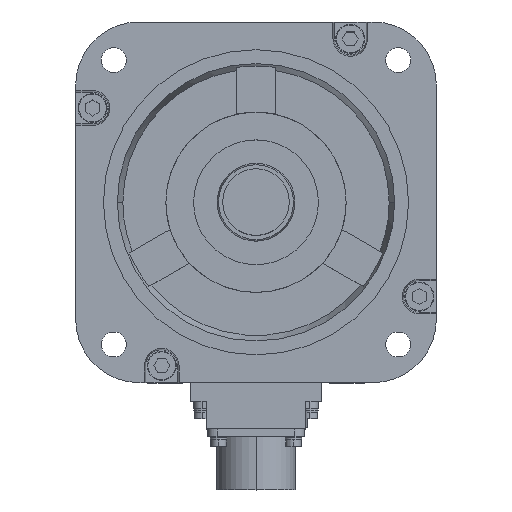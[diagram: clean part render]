
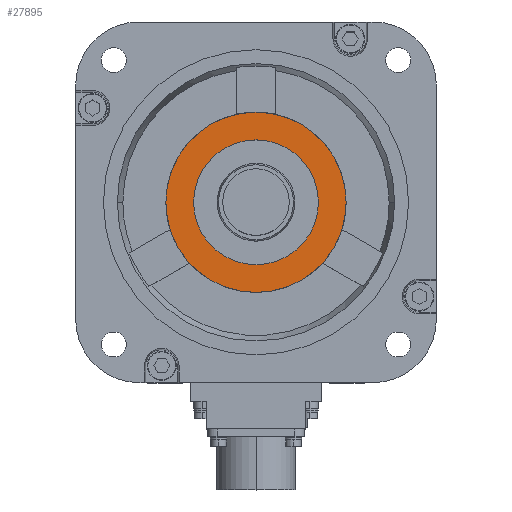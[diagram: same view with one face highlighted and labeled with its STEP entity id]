
A CAD part, top view. The second image highlights one B-rep face of the part: STEP entity #27895.
In plain terms, the highlighted planar face has unit normal (0, 0, 1).
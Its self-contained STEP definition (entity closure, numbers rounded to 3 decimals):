
#60 = ORIENTED_EDGE ( 'NONE', *, *, #26443, .T. ) ;
#69 = ORIENTED_EDGE ( 'NONE', *, *, #5190, .T. ) ;
#2201 = VERTEX_POINT ( 'NONE', #17035 ) ;
#3138 = VERTEX_POINT ( 'NONE', #18760 ) ;
#3155 = EDGE_CURVE ( 'NONE', #3138, #3156, #18790, .T. ) ;
#3156 = VERTEX_POINT ( 'NONE', #18856 ) ;
#5190 = EDGE_CURVE ( 'NONE', #14249, #2201, #19954, .T. ) ;
#10240 = CARTESIAN_POINT ( 'NONE',  ( 0., 0., 6. ) ) ;
#10307 = DIRECTION ( 'NONE',  ( 1., 0., 0. ) ) ;
#10309 = DIRECTION ( 'NONE',  ( 0., 0., 1. ) ) ;
#10310 = AXIS2_PLACEMENT_3D ( 'NONE', #10240, #10309, #10307 ) ;
#10311 = CIRCLE ( 'NONE', #10310, 32.5 ) ;
#12944 = DIRECTION ( 'NONE',  ( 1., 0., 0. ) ) ;
#12945 = DIRECTION ( 'NONE',  ( 0., 0., 1. ) ) ;
#12946 = CARTESIAN_POINT ( 'NONE',  ( 0., 0., 6. ) ) ;
#12947 = AXIS2_PLACEMENT_3D ( 'NONE', #12946, #12945, #12944 ) ;
#12948 = PLANE ( 'NONE',  #12947 ) ;
#12949 = FACE_OUTER_BOUND ( 'NONE', #27511, .T. ) ;
#12950 = FACE_BOUND ( 'NONE', #27736, .T. ) ;
#12993 = DIRECTION ( 'NONE',  ( 1., 0., 0. ) ) ;
#12994 = DIRECTION ( 'NONE',  ( 0., 0., 1. ) ) ;
#12995 = AXIS2_PLACEMENT_3D ( 'NONE', #13008, #12994, #12993 ) ;
#12996 = CIRCLE ( 'NONE', #12995, 22.5 ) ;
#13008 = CARTESIAN_POINT ( 'NONE',  ( 0., 0., 6. ) ) ;
#14249 = VERTEX_POINT ( 'NONE', #21727 ) ;
#17035 = CARTESIAN_POINT ( 'NONE',  ( -32.5, 0., 6. ) ) ;
#18760 = CARTESIAN_POINT ( 'NONE',  ( -22.5, 0., 6. ) ) ;
#18787 = DIRECTION ( 'NONE',  ( 0., 0., 1. ) ) ;
#18788 = CARTESIAN_POINT ( 'NONE',  ( 0., 0., 6. ) ) ;
#18789 = AXIS2_PLACEMENT_3D ( 'NONE', #18788, #18787, #18857 ) ;
#18790 = CIRCLE ( 'NONE', #18789, 22.5 ) ;
#18856 = CARTESIAN_POINT ( 'NONE',  ( 22.5, 0., 6. ) ) ;
#18857 = DIRECTION ( 'NONE',  ( 1., 0., 0. ) ) ;
#19950 = DIRECTION ( 'NONE',  ( 1., 0., 0. ) ) ;
#19951 = DIRECTION ( 'NONE',  ( 0., 0., 1. ) ) ;
#19952 = CARTESIAN_POINT ( 'NONE',  ( 0., 0., 6. ) ) ;
#19953 = AXIS2_PLACEMENT_3D ( 'NONE', #19952, #19951, #19950 ) ;
#19954 = CIRCLE ( 'NONE', #19953, 32.5 ) ;
#21727 = CARTESIAN_POINT ( 'NONE',  ( 32.5, 0., 6. ) ) ;
#26443 = EDGE_CURVE ( 'NONE', #2201, #14249, #10311, .T. ) ;
#27511 = EDGE_LOOP ( 'NONE', ( #69, #60 ) ) ;
#27628 = ORIENTED_EDGE ( 'NONE', *, *, #3155, .F. ) ;
#27646 = ORIENTED_EDGE ( 'NONE', *, *, #27909, .F. ) ;
#27736 = EDGE_LOOP ( 'NONE', ( #27646, #27628 ) ) ;
#27895 = ADVANCED_FACE ( 'NONE', ( #12950, #12949 ), #12948, .T. ) ;
#27909 = EDGE_CURVE ( 'NONE', #3156, #3138, #12996, .T. ) ;
